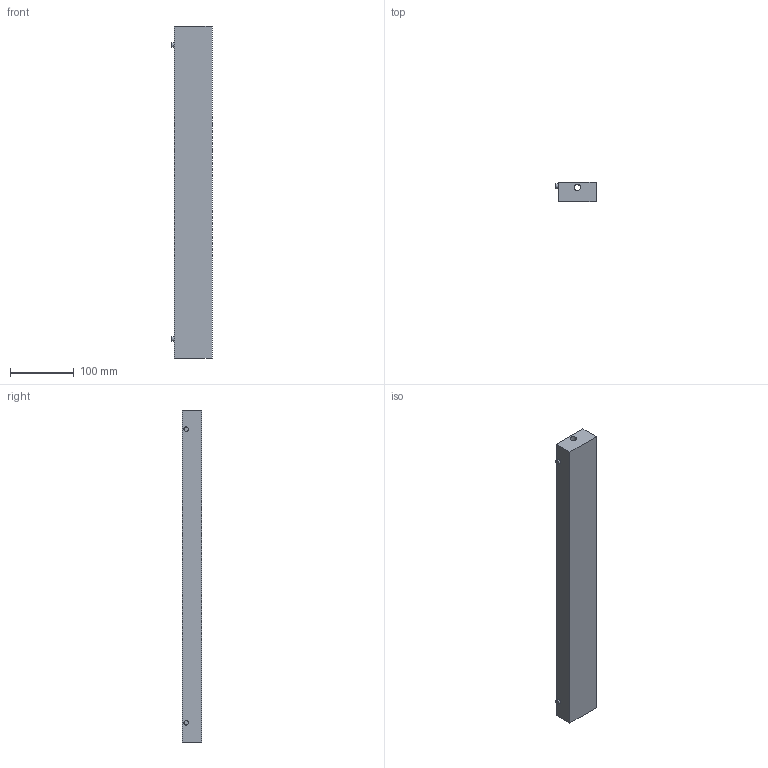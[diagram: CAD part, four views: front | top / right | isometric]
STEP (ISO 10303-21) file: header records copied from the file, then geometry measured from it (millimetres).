
FILE_DESCRIPTION (( 'STEP AP203' ), '1' );
FILE_NAME ('Assemblage_plaque.STEP', '2020-03-27T11:08:47', ( '' ), ( '' ), 'SwSTEP 2.0', 'SolidWorks 2020', '' );
FILE_SCHEMA (( 'CONFIG_CONTROL_DESIGN' ));
Length unit declared in the file: millimetre
Products named in the file (5): Assemblage_plaque; vis4; roue_entrainement; plaque; ecrou
Assembly tree (7 placements, depth 2):
  Assemblage_plaque
    plaque
    roue_entrainement  x2
    ecrou  x2
    vis4  x2
Bounding box: 63 x 30.22 x 520 mm (x, y, z)
Volume: 151714.9 mm3; surface area: 130094.5 mm2
Topology: 7 solids, 7 shells, 65 faces, 144 edges, 96 vertices
Faces by surface type: plane 37, cylinder 28
Entity records: 1839 total; most frequent: DIRECTION 236, CARTESIAN_POINT 212, ORIENTED_EDGE 192, EDGE_CURVE 96, AXIS2_PLACEMENT_3D 88, VERTEX_POINT 64, VECTOR 60, LINE 60
